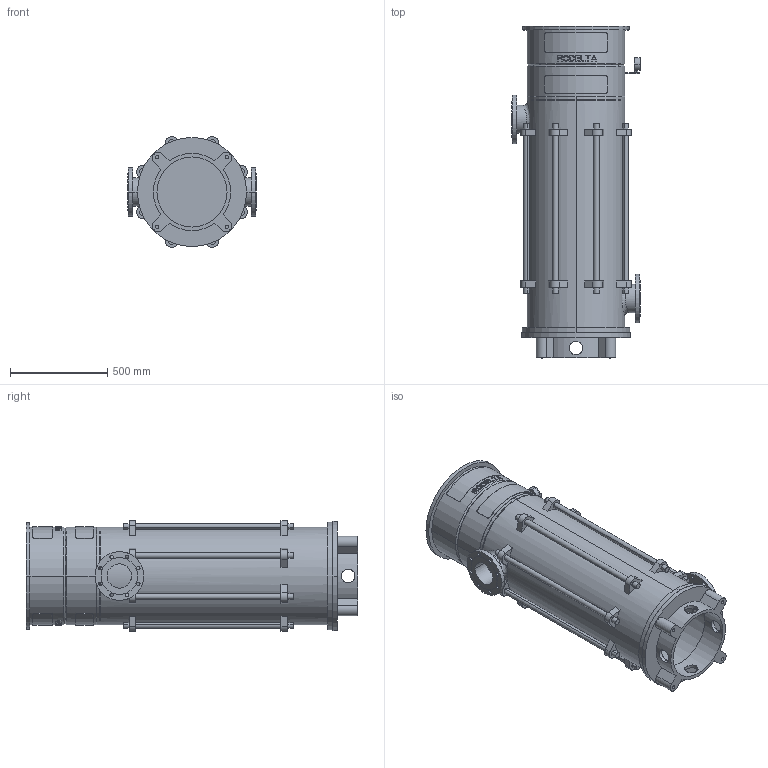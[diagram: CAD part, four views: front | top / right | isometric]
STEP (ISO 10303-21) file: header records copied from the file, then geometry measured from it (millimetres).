
FILE_DESCRIPTION((''),'2;1');
FILE_NAME('LS5_7TR_0GR_ABOVE_30KW','2023-08-07T',('Lyritlocal'),(''),'PRO/ENGINEER BY PARAMETRIC TECHNOLOGY CORPORATION, 2016360','PRO/ENGINEER BY PARAMETRIC TECHNOLOGY CORPORATION, 2016360','');
FILE_SCHEMA(('CONFIG_CONTROL_DESIGN'));
Length unit declared in the file: millimetre
Products named in the file (1): LS5_7TR_0GR_ABOVE_30KW
Bounding box: 660 x 1704 x 568.08 mm (x, y, z)
Volume: 49377422.2 mm3; surface area: 7401587.7 mm2
Topology: 3 solids, 7 shells, 672 faces, 1747 edges, 1158 vertices
Faces by surface type: plane 414, cylinder 242, cone 12, bspline 4
Entity records: 21888 total; most frequent: CARTESIAN_POINT 5444, ORIENTED_EDGE 3478, DIRECTION 3269, EDGE_CURVE 1747, AXIS2_PLACEMENT_3D 1241, VERTEX_POINT 1158, EDGE_LOOP 809, VECTOR 787
